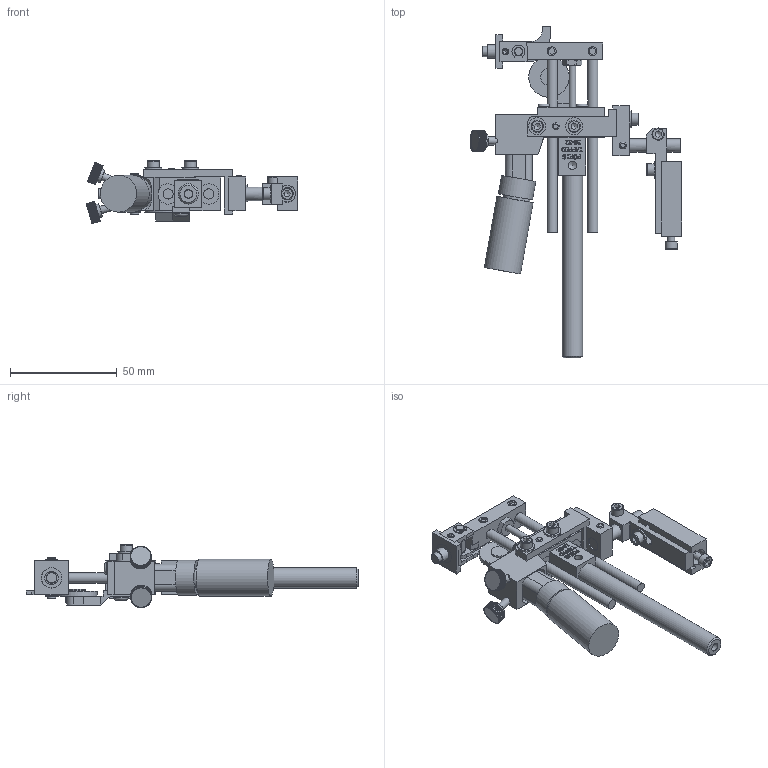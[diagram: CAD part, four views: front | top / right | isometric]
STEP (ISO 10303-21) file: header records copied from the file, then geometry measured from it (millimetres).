
FILE_DESCRIPTION((''),'2;1');
FILE_NAME('C:\Documents and Settings\Ron\My Documents\Inventor\Sprinter Drawing\Machines in Inventor\Model 22\Dot\3-sixth\Ext Str\E1\Brkt\90\Model 22 ES 1 3-16 dot 90 deg w brkt.stp','2009-01-14T10:00:36',('Ron'),(''),'Autodesk Inventor 2008','Autodesk Inventor 2008','');
FILE_SCHEMA(('AUTOMOTIVE_DESIGN { 1 0 10303 214 1 1 1 1 }'));
Length unit declared in the file: inch
Products named in the file (1): Model 22 ES 1 3-16 dot 90 deg w brkt
Bounding box: 99.17 x 155.61 x 29.56 mm (x, y, z)
Volume: 6405.6 mm3; surface area: 35976.6 mm2
Topology: 13 solids, 14 shells, 4735 faces, 13129 edges, 8709 vertices
Faces by surface type: plane 2891, bspline 1291, cylinder 482, cone 57, torus 14
Full cylindrical faces by diameter (mm): 2.845 x3, 2.946 x2, 3.175 x4, 3.505 x7, 3.556 x2, 3.658 x1, 3.876 x1, 3.962 x9, 4.064 x1, 4.166 x3, 4.648 x2, 4.699 x1, 4.75 x1, 4.763 x2, 4.775 x3, 4.788 x1, 5.41 x2, 5.74 x6, 6.096 x1, 6.325 x2, 6.35 x4, 6.477 x1, 6.655 x1, 7.925 x4, 7.938 x1, 8.128 x1, 9.462 x1, 9.525 x1, 10.922 x1, 11.938 x1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
Entity records: 165972 total; most frequent: CARTESIAN_POINT 49553, ORIENTED_EDGE 25718, DIRECTION 18374, EDGE_CURVE 12859, VECTOR 9082, LINE 9082, VERTEX_POINT 8609, EDGE_LOOP 5267
